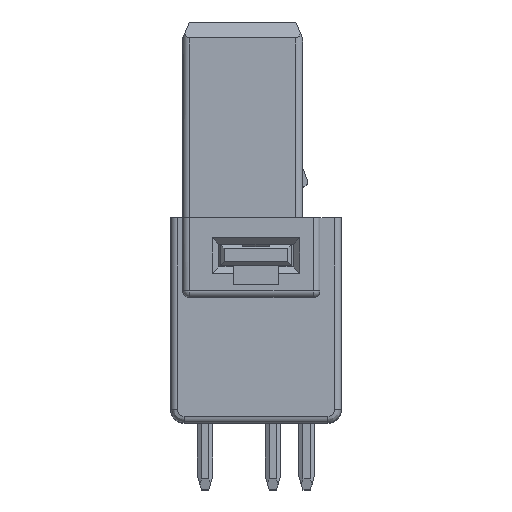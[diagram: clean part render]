
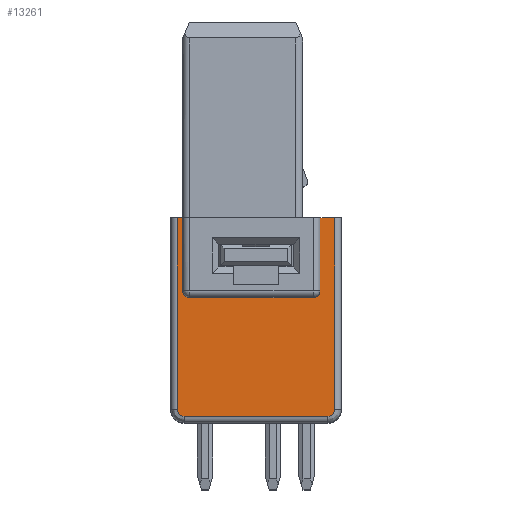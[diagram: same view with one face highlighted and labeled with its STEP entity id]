
A CAD part, top view. The second image highlights one B-rep face of the part: STEP entity #13261.
In plain terms, the highlighted planar face has unit normal (0, 0, 1).
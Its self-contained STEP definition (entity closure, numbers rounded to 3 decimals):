
#1455=DIRECTION('',(-1.,0.,0.));
#1456=VECTOR('',#1455,1.1);
#1457=CARTESIAN_POINT('',(12.3,15.4,19.05));
#1458=LINE('',#1457,#1456);
#1477=DIRECTION('',(-1.,0.,0.));
#1478=VECTOR('',#1477,0.4);
#1479=CARTESIAN_POINT('',(0.9,15.4,19.05));
#1480=LINE('',#1479,#1478);
#1803=DIRECTION('',(0.,1.,0.));
#1804=VECTOR('',#1803,14.4);
#1805=CARTESIAN_POINT('',(12.3,1.,19.05));
#1806=LINE('',#1805,#1804);
#1821=DIRECTION('',(1.,0.,0.));
#1822=VECTOR('',#1821,10.8);
#1823=CARTESIAN_POINT('',(1.,0.5,19.05));
#1824=LINE('',#1823,#1822);
#3110=DIRECTION('',(0.,-1.,0.));
#3111=VECTOR('',#3110,14.4);
#3112=CARTESIAN_POINT('',(0.5,15.4,19.05));
#3113=LINE('',#3112,#3111);
#3118=DIRECTION('',(1.,0.,0.));
#3119=VECTOR('',#3118,9.3);
#3120=CARTESIAN_POINT('',(1.4,9.4,19.05));
#3121=LINE('',#3120,#3119);
#3122=CARTESIAN_POINT('',(10.7,9.9,19.05));
#3123=DIRECTION('',(0.,0.,1.));
#3124=DIRECTION('',(0.,-1.,0.));
#3125=AXIS2_PLACEMENT_3D('',#3122,#3123,#3124);
#3127=CARTESIAN_POINT('',(11.8,1.,19.05));
#3128=DIRECTION('',(0.,0.,-1.));
#3129=DIRECTION('',(1.,0.,0.));
#3130=AXIS2_PLACEMENT_3D('',#3127,#3128,#3129);
#3132=CARTESIAN_POINT('',(1.,1.,19.05));
#3133=DIRECTION('',(0.,0.,-1.));
#3134=DIRECTION('',(0.,-1.,0.));
#3135=AXIS2_PLACEMENT_3D('',#3132,#3133,#3134);
#3137=DIRECTION('',(0.,-1.,0.));
#3138=VECTOR('',#3137,5.5);
#3139=CARTESIAN_POINT('',(0.9,15.4,19.05));
#3140=LINE('',#3139,#3138);
#3141=CARTESIAN_POINT('',(1.4,9.9,19.05));
#3142=DIRECTION('',(0.,0.,1.));
#3143=DIRECTION('',(-1.,0.,0.));
#3144=AXIS2_PLACEMENT_3D('',#3141,#3142,#3143);
#3186=DIRECTION('',(0.,-1.,0.));
#3187=VECTOR('',#3186,5.5);
#3188=CARTESIAN_POINT('',(11.2,15.4,19.05));
#3189=LINE('',#3188,#3187);
#7047=CARTESIAN_POINT('',(12.3,15.4,19.05));
#7048=VERTEX_POINT('',#7047);
#7049=CARTESIAN_POINT('',(11.2,15.4,19.05));
#7050=VERTEX_POINT('',#7049);
#7059=CARTESIAN_POINT('',(0.9,15.4,19.05));
#7060=VERTEX_POINT('',#7059);
#7061=CARTESIAN_POINT('',(0.5,15.4,19.05));
#7062=VERTEX_POINT('',#7061);
#7251=CARTESIAN_POINT('',(0.5,1.,19.05));
#7252=VERTEX_POINT('',#7251);
#7253=CARTESIAN_POINT('',(1.4,9.4,19.05));
#7254=CARTESIAN_POINT('',(10.7,9.4,19.05));
#7255=VERTEX_POINT('',#7253);
#7256=VERTEX_POINT('',#7254);
#7257=CARTESIAN_POINT('',(11.2,9.9,19.05));
#7258=VERTEX_POINT('',#7257);
#7259=CARTESIAN_POINT('',(12.3,1.,19.05));
#7260=VERTEX_POINT('',#7259);
#7261=CARTESIAN_POINT('',(11.8,0.5,19.05));
#7262=VERTEX_POINT('',#7261);
#7263=CARTESIAN_POINT('',(1.,0.5,19.05));
#7264=VERTEX_POINT('',#7263);
#7265=CARTESIAN_POINT('',(0.9,9.9,19.05));
#7266=VERTEX_POINT('',#7265);
#13236=CARTESIAN_POINT('',(20.34,0.,19.05));
#13237=DIRECTION('',(0.,0.,-1.));
#13238=DIRECTION('',(0.,1.,0.));
#13239=AXIS2_PLACEMENT_3D('',#13236,#13237,#13238);
#13240=PLANE('',#13239);
#13242=ORIENTED_EDGE('',*,*,#13241,.T.);
#13244=ORIENTED_EDGE('',*,*,#13243,.T.);
#13246=ORIENTED_EDGE('',*,*,#13245,.F.);
#13247=ORIENTED_EDGE('',*,*,#10940,.F.);
#13248=ORIENTED_EDGE('',*,*,#11198,.F.);
#13249=ORIENTED_EDGE('',*,*,#11223,.T.);
#13250=ORIENTED_EDGE('',*,*,#11238,.F.);
#13252=ORIENTED_EDGE('',*,*,#13251,.T.);
#13253=ORIENTED_EDGE('',*,*,#13228,.F.);
#13254=ORIENTED_EDGE('',*,*,#10952,.F.);
#13256=ORIENTED_EDGE('',*,*,#13255,.T.);
#13258=ORIENTED_EDGE('',*,*,#13257,.T.);
#13259=EDGE_LOOP('',(#13242,#13244,#13246,#13247,#13248,#13249,#13250,#13252,
#13253,#13254,#13256,#13258));
#13260=FACE_OUTER_BOUND('',#13259,.F.);
#13261=ADVANCED_FACE('',(#13260),#13240,.F.);
#3126=CIRCLE('',#3125,0.5);
#3131=CIRCLE('',#3130,0.5);
#3136=CIRCLE('',#3135,0.5);
#3145=CIRCLE('',#3144,0.5);
#10940=EDGE_CURVE('',#7048,#7050,#1458,.T.);
#10952=EDGE_CURVE('',#7060,#7062,#1480,.T.);
#11198=EDGE_CURVE('',#7260,#7048,#1806,.T.);
#11223=EDGE_CURVE('',#7260,#7262,#3131,.T.);
#11238=EDGE_CURVE('',#7264,#7262,#1824,.T.);
#13228=EDGE_CURVE('',#7062,#7252,#3113,.T.);
#13241=EDGE_CURVE('',#7255,#7256,#3121,.T.);
#13243=EDGE_CURVE('',#7256,#7258,#3126,.T.);
#13245=EDGE_CURVE('',#7050,#7258,#3189,.T.);
#13251=EDGE_CURVE('',#7264,#7252,#3136,.T.);
#13255=EDGE_CURVE('',#7060,#7266,#3140,.T.);
#13257=EDGE_CURVE('',#7266,#7255,#3145,.T.);
